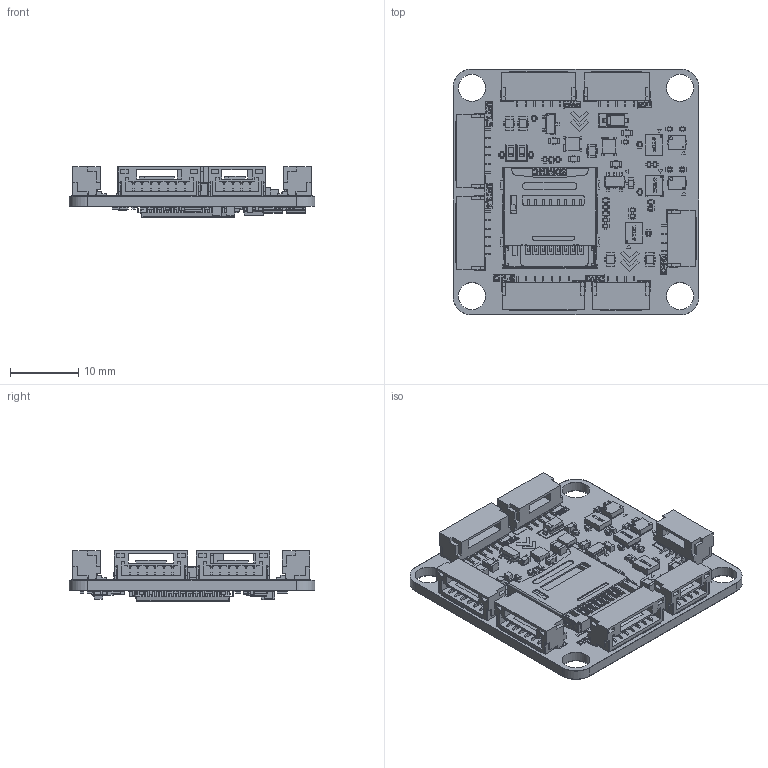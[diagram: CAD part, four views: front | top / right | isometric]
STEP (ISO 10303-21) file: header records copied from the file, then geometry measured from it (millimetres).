
FILE_DESCRIPTION(('KiCad electronic assembly'),'2;1');
FILE_NAME('Sierra-F1-Mini.step','2025-07-10T21:05:52',('Pcbnew'),( 'Kicad'),'Open CASCADE STEP processor 7.8','KiCad to STEP converter' ,'Unknown');
FILE_SCHEMA(('AUTOMOTIVE_DESIGN { 1 0 10303 214 1 1 1 1 }'));
Length unit declared in the file: millimetre
Products named in the file (44): Sierra-F1-Mini 1; R_0402_1005Metric; C_0603_1608Metric; JST_GH_SM05B-GHS-TB_1x05-1MP_P1.25mm_Horizontal; JST_GH_SM06B-GHS-TB_1x06-1MP_P1.25mm_Horizontal; C_0402_1005Metric; C_0805_2012Metric; LED_0603_1608Metric; DPS368; DRV0006A; BODY-SON; FRAME-DRV0006A; SOLID; PIN1-ID; SOT-23-3; JST_GH_SM04B-GHS-TB_1x04-1MP_P1.25mm_Horizontal; JST_GH_SM07B-GHS-TB_1x07-1MP_P1.25mm_Horizontal; ICM-42688-P; DBV0005A; BODY-SOT; LEAD-SOT; LEAD-DUMMY; 472192001; COMPOUND; D_SOD-123; Crystal_SMD_2520-4Pin_2.5x2.0mm; R_1206_3216Metric; DDF0008A; BODY-SO; LEAD-SO; SOT-563; D_SOD-323F; LQFP-100_14x14mm_P0.5mm; Sierra-F1-Mini_silkscreen; Sierra-F1-Mini_soldermask; Sierra-F1-Mini_PCB
Assembly tree (152 placements, depth 4):
  Sierra-F1-Mini 1
    R_0402_1005Metric  x46
    C_0603_1608Metric  x7
    JST_GH_SM05B-GHS-TB_1x05-1MP_P1.25mm_Horizontal
    JST_GH_SM06B-GHS-TB_1x06-1MP_P1.25mm_Horizontal  x3
    C_0402_1005Metric  x31
    C_0805_2012Metric  x7
    LED_0603_1608Metric  x2
    DPS368  x2
    DRV0006A  x2
      BODY-SON
      FRAME-DRV0006A
        SOLID
        SOLID
        SOLID
        SOLID
        SOLID
        SOLID
        SOLID
      PIN1-ID
    SOT-23-3  x2
    JST_GH_SM04B-GHS-TB_1x04-1MP_P1.25mm_Horizontal  x2
    JST_GH_SM07B-GHS-TB_1x07-1MP_P1.25mm_Horizontal
    ICM-42688-P  x3
    DBV0005A
      BODY-SOT
      LEAD-SOT  x5
      LEAD-DUMMY
    472192001
      SOLID
      COMPOUND
    D_SOD-123
    Crystal_SMD_2520-4Pin_2.5x2.0mm
    R_1206_3216Metric  x2
    DDF0008A  x2
      BODY-SO
      LEAD-SO
      PIN1-ID
    SOT-563
    D_SOD-323F
    LQFP-100_14x14mm_P0.5mm
    Sierra-F1-Mini_silkscreen
    Sierra-F1-Mini_soldermask
    Sierra-F1-Mini_PCB
Bounding box: 36 x 36 x 7.38 mm (x, y, z)
Volume: 3042.9 mm3; surface area: 9897.4 mm2
Topology: 229 solids, 565 shells, 8814 faces, 27979 edges, 20233 vertices
Faces by surface type: plane 6785, cylinder 1755, bspline 214, torus 36, sphere 24
Full cylindrical faces by diameter (mm): 0.25 x1, 0.5 x1, 4 x4
Entity records: 211957 total; most frequent: CARTESIAN_POINT 39643, DIRECTION 28440, ORIENTED_EDGE 28399, EDGE_CURVE 16966, LINE 14294, VECTOR 14294, VERTEX_POINT 12906, AXIS2_PLACEMENT_3D 7073
